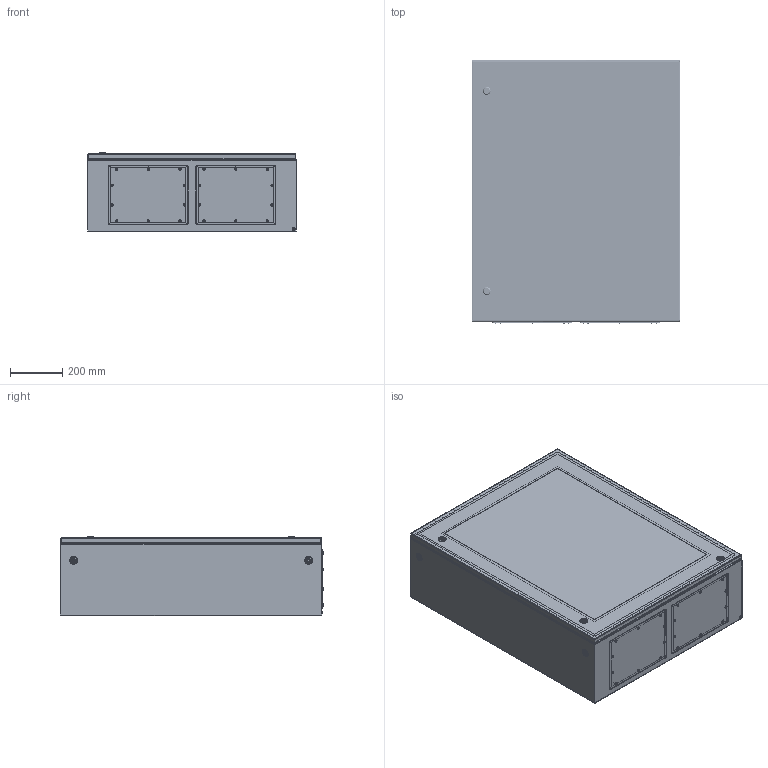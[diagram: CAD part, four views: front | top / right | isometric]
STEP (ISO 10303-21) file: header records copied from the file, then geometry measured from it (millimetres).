
FILE_DESCRIPTION (( 'STEP AP214' ), '1' );
FILE_NAME ('CCV 100.80.30.STEP', '2025-09-19T05:56:16', ( '' ), ( '' ), 'SwSTEP 2.0', 'SolidWorks 2019', '' );
FILE_SCHEMA (( 'AUTOMOTIVE_DESIGN' ));
Length unit declared in the file: millimetre
Products named in the file (30): plain washer grade a_din_Washer DIN 125 - A 5.3; Âèíò ðåçüáîâûäàâëèâàþùèé ñ ïîëóïîòàéíîé ãîëîâêîé Ì5õ12; Çàìîê LC 5DB.S_‡ ¬®ª LC 5DB.S_45mm; CCV X.Y.02.001 拟屦黖CCV 100.80; PKV Y.22 相礤朦 赅徨朦眍泐 忖钿郷PKV 40.22; Ïåòëÿ KIT_Ìîäóëü_êîðïóñíàÿ ÷àñòü â ñáîðå; Essentra_d9.3_055009300003; ﾇ瑟鶴 LC 5DB.S; hex flange nut_din_Hexagon Flange Nut DIN 6923 - M8 - N; Ïåòëÿ KIT_Ìîäóëü_êîðïóñíàÿ ÷àñòü; CCV 100.80.30; Øïèëüêà çàçåìëåíèÿ Ì6õ17,5_˜¯¨«ìª  § §¥¬«¥­¨ï Œ6å17,5 á ª®«¯ çª®¬; CCS X.Y.30(40).01.001 Êîðïóñ_ïàíåëü ñðåäíÿÿ_CCS 100.80.30; MPC X.Y Ïàíåëü ìîíòàæíàÿ_MPC 100.80; KIT_Øòèôò_ô5_Ìîäóëü; CCV X.Y.02.002 栺樏鋋_CCV 100.80; KIT_Çàæèìíîå êîëüöî_ïîëèîêñèìåòèëåí_ô5_EMKA 1031-U16; CCS Y.Z.01.003 Êîðïóñ_ïàíåëü íèæíÿÿ_CCS 80.30; CCS X.Y.30(40).01.000ÑÁ Êîðïóñ øêàôà ñâàðíîé_CCS 100.80.30; CCS Y.Z.01.002 Êîðïóñ_ïàíåëü âåðõíÿÿ_CCS 80.30; Øïèëüêà Ì8õ25; CCV X.Y.02.000蚜 拟屦黖CCV 100.80; ßçû÷îê çàìêà LC 5DB.S; Ïåòëÿ ïðèâàðíàÿ ÷àñòü; pan head cross recess screw_din_DIN EN ISO 7045 - M5 x 6 - Z - 6N; Essentra_d6,3_1287228; Øïèëüêà çàçåìëåíèÿ Ì6õ17,5_˜¯¨«ìª  § §¥¬«¥­¨ï Œ6å17,5
Assembly tree (78 placements, depth 3):
  CCV 100.80.30
    CCS X.Y.30(40).01.000ÑÁ Êîðïóñ øêàôà ñâàðíîé_CCS 100.80.30
      CCS X.Y.30(40).01.001 Êîðïóñ_ïàíåëü ñðåäíÿÿ_CCS 100.80.30
      CCS Y.Z.01.003 Êîðïóñ_ïàíåëü íèæíÿÿ_CCS 80.30
      CCS Y.Z.01.002 Êîðïóñ_ïàíåëü âåðõíÿÿ_CCS 80.30
      Øïèëüêà çàçåìëåíèÿ Ì6õ17,5_˜¯¨«ìª  § §¥¬«¥­¨ï Œ6å17,5  x4
      Øïèëüêà Ì8õ25  x6
    Ïåòëÿ KIT_Ìîäóëü_êîðïóñíàÿ ÷àñòü â ñáîðå
      Ïåòëÿ KIT_Ìîäóëü_êîðïóñíàÿ ÷àñòü
      KIT_Øòèôò_ô5_Ìîäóëü
      KIT_Çàæèìíîå êîëüöî_ïîëèîêñèìåòèëåí_ô5_EMKA 1031-U16
    Ïåòëÿ KIT_Ìîäóëü_êîðïóñíàÿ ÷àñòü â ñáîðå
      Ïåòëÿ KIT_Ìîäóëü_êîðïóñíàÿ ÷àñòü
      KIT_Øòèôò_ô5_Ìîäóëü
      KIT_Çàæèìíîå êîëüöî_ïîëèîêñèìåòèëåí_ô5_EMKA 1031-U16
    Ïåòëÿ KIT_Ìîäóëü_êîðïóñíàÿ ÷àñòü â ñáîðå
      Ïåòëÿ KIT_Ìîäóëü_êîðïóñíàÿ ÷àñòü
      KIT_Øòèôò_ô5_Ìîäóëü
      KIT_Çàæèìíîå êîëüöî_ïîëèîêñèìåòèëåí_ô5_EMKA 1031-U16
    CCV X.Y.02.000蚜 拟屦黖CCV 100.80
      CCV X.Y.02.001 拟屦黖CCV 100.80
      Øïèëüêà çàçåìëåíèÿ Ì6õ17,5_˜¯¨«ìª  § §¥¬«¥­¨ï Œ6å17,5 á ª®«¯ çª®¬
      CCV X.Y.02.002 栺樏鋋_CCV 100.80
      Ïåòëÿ ïðèâàðíàÿ ÷àñòü  x3
    MPC X.Y Ïàíåëü ìîíòàæíàÿ_MPC 100.80
    pan head cross recess screw_din_DIN EN ISO 7045 - M5 x 6 - Z - 6N  x3
    plain washer grade a_din_Washer DIN 125 - A 5.3  x3
    hex flange nut_din_Hexagon Flange Nut DIN 6923 - M8 - N  x6
    Essentra_d9.3_055009300003
    Essentra_d6,3_1287228  x3
    Çàìîê LC 5DB.S_‡ ¬®ª LC 5DB.S_45mm
      ﾇ瑟鶴 LC 5DB.S
      ßçû÷îê çàìêà LC 5DB.S
    Çàìîê LC 5DB.S_‡ ¬®ª LC 5DB.S_45mm
      ﾇ瑟鶴 LC 5DB.S
      ßçû÷îê çàìêà LC 5DB.S
    PKV Y.22 相礤朦 赅徨朦眍泐 忖钿郷PKV 40.22  x2
    Âèíò ðåçüáîâûäàâëèâàþùèé ñ ïîëóïîòàéíîé ãîëîâêîé Ì5õ12  x20
Bounding box: 800 x 1007.22 x 304.5 mm (x, y, z)
Volume: 7105125.1 mm3; surface area: 7464678.5 mm2
Topology: 77 solids, 77 shells, 3089 faces, 7792 edges, 4873 vertices
Faces by surface type: plane 1235, cylinder 1125, cone 312, bspline 183, torus 169, sphere 65
Entity records: 54119 total; most frequent: CARTESIAN_POINT 22286, ORIENTED_EDGE 6290, DIRECTION 6269, EDGE_CURVE 3145, AXIS2_PLACEMENT_3D 2335, VERTEX_POINT 1975, VECTOR 1599, LINE 1599
